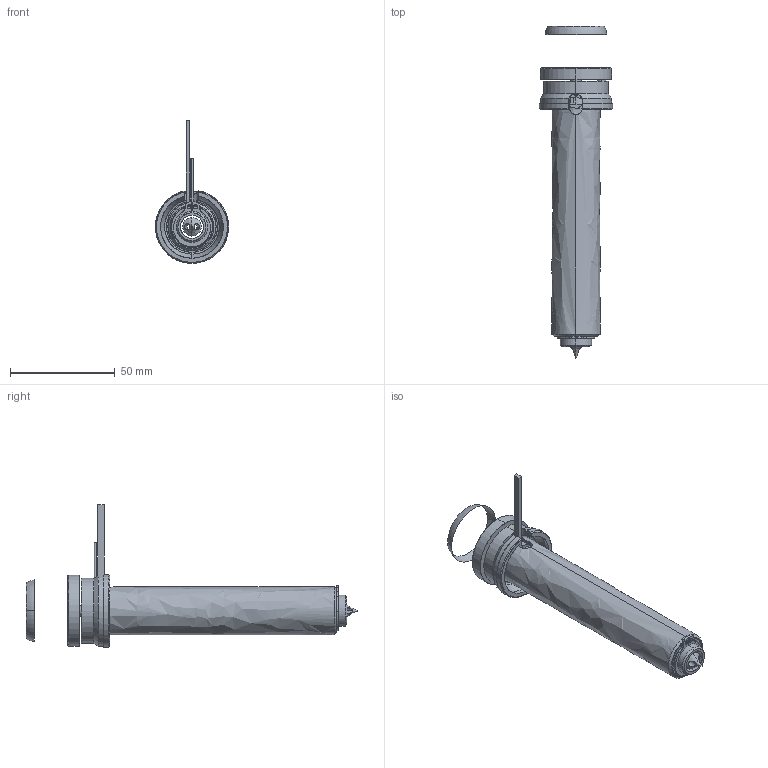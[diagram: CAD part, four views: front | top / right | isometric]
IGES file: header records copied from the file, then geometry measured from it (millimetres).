
Start section: SolidWorks IGES file using analytic representation for surfaces
Global section: file name: C:\Users\luca.EMPAD\Desktop\TEM\UGDL2603-M-A [Øf=0.3 ØC=5.0].IGS; native system: SolidWorks 2012; preprocessor: SolidWorks 2012; author: luca; date: 120330.144835; units: millimetre
Bounding box: 35 x 158.84 x 68.3 mm (x, y, z)
Surface area: 33480.7 mm2 (no closed solid volume)
Topology: 0 solids, 0 shells, 136 faces, 2196 edges, 2192 vertices
Faces by surface type: revolution 78, bspline 58
